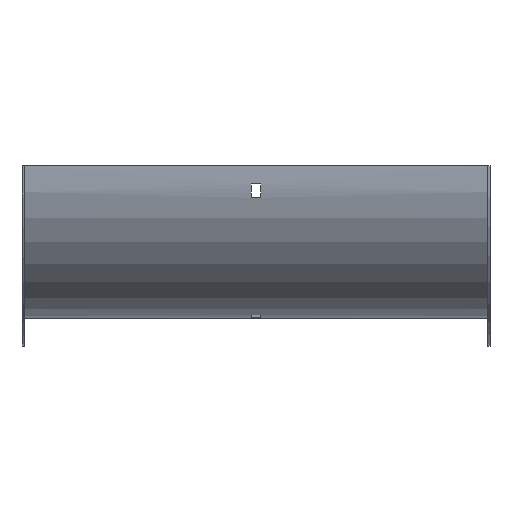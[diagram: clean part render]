
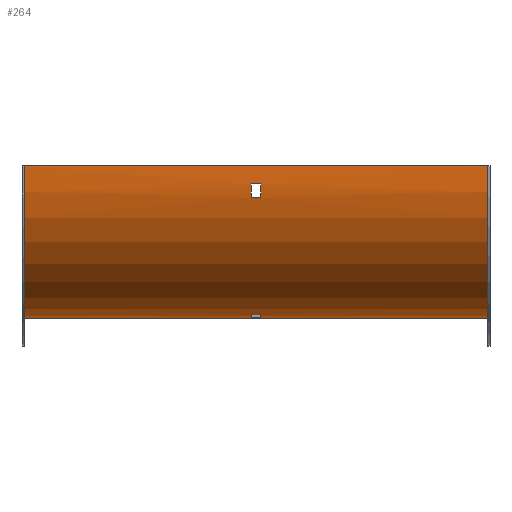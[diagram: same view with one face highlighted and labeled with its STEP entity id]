
A CAD part, front view. The second image highlights one B-rep face of the part: STEP entity #264.
In plain terms, the highlighted cylindrical face has radius 100 mm (diameter 200 mm), a partial arc.
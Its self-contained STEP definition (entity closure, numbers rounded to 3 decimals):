
#2 = CARTESIAN_POINT ( 'NONE',  ( -152., 98.5, 0. ) ) ;
#10 = CIRCLE ( 'NONE', #462, 100. ) ;
#12 = CYLINDRICAL_SURFACE ( 'NONE', #163, 100. ) ;
#14 = CARTESIAN_POINT ( 'NONE',  ( 153.5, 98.5, 0. ) ) ;
#16 = ORIENTED_EDGE ( 'NONE', *, *, #405, .F. ) ;
#19 = VERTEX_POINT ( 'NONE', #179 ) ;
#27 = DIRECTION ( 'NONE',  ( 1., 0., 0. ) ) ;
#31 = VERTEX_POINT ( 'NONE', #502 ) ;
#46 = EDGE_CURVE ( 'NONE', #348, #169, #445, .T. ) ;
#49 = ORIENTED_EDGE ( 'NONE', *, *, #478, .T. ) ;
#52 = DIRECTION ( 'NONE',  ( -1., 0., 0. ) ) ;
#61 = DIRECTION ( 'NONE',  ( -1., 0., 0. ) ) ;
#71 = EDGE_LOOP ( 'NONE', ( #212, #16, #493, #399 ) ) ;
#72 = VERTEX_POINT ( 'NONE', #277 ) ;
#76 = CARTESIAN_POINT ( 'NONE',  ( 152., -1.5, 0. ) ) ;
#86 = LINE ( 'NONE', #407, #110 ) ;
#88 = DIRECTION ( 'NONE',  ( 1., 0., 0. ) ) ;
#94 = DIRECTION ( 'NONE',  ( -1., 0., 0. ) ) ;
#104 = EDGE_CURVE ( 'NONE', #391, #72, #551, .T. ) ;
#110 = VECTOR ( 'NONE', #590, 1000. ) ;
#111 = CARTESIAN_POINT ( 'NONE',  ( -3.25, -0.777, -12. ) ) ;
#123 = CARTESIAN_POINT ( 'NONE',  ( 153.5, 0.73, -21. ) ) ;
#125 = VERTEX_POINT ( 'NONE', #240 ) ;
#128 = CARTESIAN_POINT ( 'NONE',  ( 152., 98.5, 0. ) ) ;
#135 = CARTESIAN_POINT ( 'NONE',  ( -3.25, 98.5, 0. ) ) ;
#141 = CARTESIAN_POINT ( 'NONE',  ( -152., 98.5, -100. ) ) ;
#144 = CARTESIAN_POINT ( 'NONE',  ( 152., -1.5, 0. ) ) ;
#147 = CARTESIAN_POINT ( 'NONE',  ( -3.25, 0.73, -21. ) ) ;
#149 = VECTOR ( 'NONE', #246, 1000. ) ;
#151 = LINE ( 'NONE', #288, #149 ) ;
#160 = DIRECTION ( 'NONE',  ( 0., 0., 1. ) ) ;
#163 = AXIS2_PLACEMENT_3D ( 'NONE', #14, #384, #160 ) ;
#169 = VERTEX_POINT ( 'NONE', #564 ) ;
#173 = CIRCLE ( 'NONE', #252, 100. ) ;
#176 = EDGE_CURVE ( 'NONE', #169, #125, #151, .T. ) ;
#178 = LINE ( 'NONE', #507, #447 ) ;
#179 = CARTESIAN_POINT ( 'NONE',  ( 3.25, 0.73, -21. ) ) ;
#192 = VERTEX_POINT ( 'NONE', #111 ) ;
#201 = EDGE_CURVE ( 'NONE', #19, #269, #10, .T. ) ;
#204 = CIRCLE ( 'NONE', #465, 100. ) ;
#212 = ORIENTED_EDGE ( 'NONE', *, *, #104, .F. ) ;
#213 = VECTOR ( 'NONE', #27, 1000. ) ;
#215 = DIRECTION ( 'NONE',  ( -1., 0., 0. ) ) ;
#217 = VERTEX_POINT ( 'NONE', #147 ) ;
#230 = DIRECTION ( 'NONE',  ( 0., 0., 1. ) ) ;
#239 = EDGE_CURVE ( 'NONE', #217, #19, #388, .T. ) ;
#240 = CARTESIAN_POINT ( 'NONE',  ( -3.25, 86.5, -99.277 ) ) ;
#246 = DIRECTION ( 'NONE',  ( -1., 0., 0. ) ) ;
#248 = DIRECTION ( 'NONE',  ( 0., 0., -1. ) ) ;
#252 = AXIS2_PLACEMENT_3D ( 'NONE', #128, #305, #230 ) ;
#254 = ORIENTED_EDGE ( 'NONE', *, *, #459, .T. ) ;
#257 = VERTEX_POINT ( 'NONE', #76 ) ;
#264 = ADVANCED_FACE ( 'NONE', ( #435, #344, #480 ), #12, .T. ) ;
#267 = EDGE_CURVE ( 'NONE', #269, #192, #274, .T. ) ;
#269 = VERTEX_POINT ( 'NONE', #531 ) ;
#270 = DIRECTION ( 'NONE',  ( 0., 0., 1. ) ) ;
#274 = LINE ( 'NONE', #341, #503 ) ;
#277 = CARTESIAN_POINT ( 'NONE',  ( -152., -1.5, 0. ) ) ;
#288 = CARTESIAN_POINT ( 'NONE',  ( 153.5, 86.5, -99.277 ) ) ;
#291 = CARTESIAN_POINT ( 'NONE',  ( 3.25, 98.5, 0. ) ) ;
#300 = ORIENTED_EDGE ( 'NONE', *, *, #239, .F. ) ;
#305 = DIRECTION ( 'NONE',  ( -1., 0., 0. ) ) ;
#308 = CARTESIAN_POINT ( 'NONE',  ( -3.25, 77.5, -97.77 ) ) ;
#309 = EDGE_LOOP ( 'NONE', ( #411, #433, #526, #300 ) ) ;
#310 = EDGE_CURVE ( 'NONE', #31, #257, #173, .T. ) ;
#311 = DIRECTION ( 'NONE',  ( -1., 0., 0. ) ) ;
#317 = CARTESIAN_POINT ( 'NONE',  ( 3.25, 77.5, -97.77 ) ) ;
#319 = DIRECTION ( 'NONE',  ( -1., 0., 0. ) ) ;
#326 = DIRECTION ( 'NONE',  ( 0., 0., 1. ) ) ;
#334 = AXIS2_PLACEMENT_3D ( 'NONE', #2, #52, #326 ) ;
#335 = CIRCLE ( 'NONE', #598, 100. ) ;
#341 = CARTESIAN_POINT ( 'NONE',  ( 153.5, -0.777, -12. ) ) ;
#344 = FACE_OUTER_BOUND ( 'NONE', #71, .T. ) ;
#345 = VERTEX_POINT ( 'NONE', #308 ) ;
#348 = VERTEX_POINT ( 'NONE', #317 ) ;
#350 = ORIENTED_EDGE ( 'NONE', *, *, #176, .T. ) ;
#358 = CARTESIAN_POINT ( 'NONE',  ( -3.25, 98.5, 0. ) ) ;
#359 = EDGE_LOOP ( 'NONE', ( #350, #49, #254, #448 ) ) ;
#362 = AXIS2_PLACEMENT_3D ( 'NONE', #595, #600, #550 ) ;
#384 = DIRECTION ( 'NONE',  ( -1., 0., 0. ) ) ;
#388 = LINE ( 'NONE', #123, #213 ) ;
#391 = VERTEX_POINT ( 'NONE', #141 ) ;
#399 = ORIENTED_EDGE ( 'NONE', *, *, #430, .T. ) ;
#403 = VECTOR ( 'NONE', #319, 1000. ) ;
#405 = EDGE_CURVE ( 'NONE', #31, #391, #178, .T. ) ;
#407 = CARTESIAN_POINT ( 'NONE',  ( 153.5, 77.5, -97.77 ) ) ;
#411 = ORIENTED_EDGE ( 'NONE', *, *, #486, .F. ) ;
#430 = EDGE_CURVE ( 'NONE', #257, #72, #555, .T. ) ;
#433 = ORIENTED_EDGE ( 'NONE', *, *, #267, .F. ) ;
#435 = FACE_BOUND ( 'NONE', #309, .T. ) ;
#445 = CIRCLE ( 'NONE', #362, 100. ) ;
#447 = VECTOR ( 'NONE', #94, 1000. ) ;
#448 = ORIENTED_EDGE ( 'NONE', *, *, #46, .T. ) ;
#459 = EDGE_CURVE ( 'NONE', #345, #348, #86, .T. ) ;
#462 = AXIS2_PLACEMENT_3D ( 'NONE', #291, #61, #248 ) ;
#465 = AXIS2_PLACEMENT_3D ( 'NONE', #358, #88, #270 ) ;
#478 = EDGE_CURVE ( 'NONE', #125, #345, #335, .T. ) ;
#480 = FACE_BOUND ( 'NONE', #359, .T. ) ;
#486 = EDGE_CURVE ( 'NONE', #192, #217, #204, .T. ) ;
#493 = ORIENTED_EDGE ( 'NONE', *, *, #310, .T. ) ;
#501 = DIRECTION ( 'NONE',  ( 0., 1., 0. ) ) ;
#502 = CARTESIAN_POINT ( 'NONE',  ( 152., 98.5, -100. ) ) ;
#503 = VECTOR ( 'NONE', #215, 1000. ) ;
#507 = CARTESIAN_POINT ( 'NONE',  ( 152., 98.5, -100. ) ) ;
#526 = ORIENTED_EDGE ( 'NONE', *, *, #201, .F. ) ;
#531 = CARTESIAN_POINT ( 'NONE',  ( 3.25, -0.777, -12. ) ) ;
#550 = DIRECTION ( 'NONE',  ( 0., 0., 1. ) ) ;
#551 = CIRCLE ( 'NONE', #334, 100. ) ;
#555 = LINE ( 'NONE', #144, #403 ) ;
#564 = CARTESIAN_POINT ( 'NONE',  ( 3.25, 86.5, -99.277 ) ) ;
#590 = DIRECTION ( 'NONE',  ( 1., 0., 0. ) ) ;
#595 = CARTESIAN_POINT ( 'NONE',  ( 3.25, 98.5, 0. ) ) ;
#598 = AXIS2_PLACEMENT_3D ( 'NONE', #135, #311, #501 ) ;
#600 = DIRECTION ( 'NONE',  ( 1., 0., 0. ) ) ;
